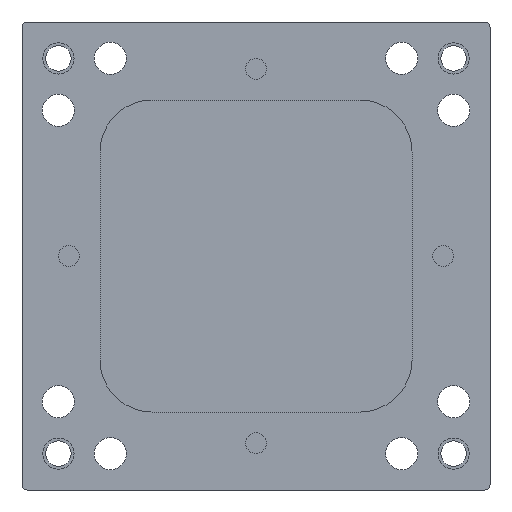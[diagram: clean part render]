
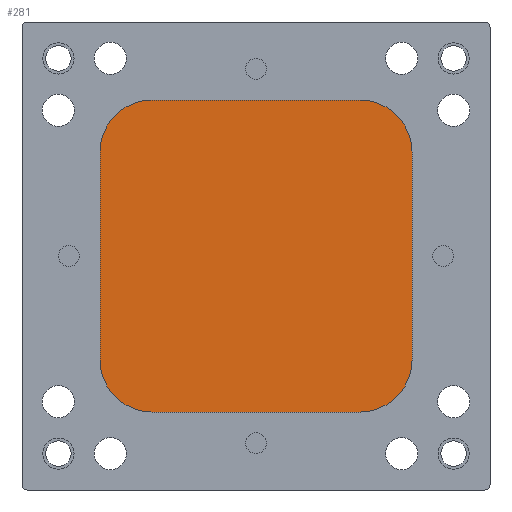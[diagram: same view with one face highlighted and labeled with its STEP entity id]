
A CAD part, left-side view. The second image highlights one B-rep face of the part: STEP entity #281.
In plain terms, the highlighted planar face has unit normal (-1, 0, 0).
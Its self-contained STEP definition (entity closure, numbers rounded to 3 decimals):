
#281=ADVANCED_FACE('',(#378),#1071,.T.);
#378=FACE_OUTER_BOUND('',#506,.F.);
#506=EDGE_LOOP('',(#959,#960,#961,#962,#963,#964,#965,#966));
#959=ORIENTED_EDGE('',*,*,#1855,.F.);
#960=ORIENTED_EDGE('',*,*,#1824,.T.);
#961=ORIENTED_EDGE('',*,*,#1854,.F.);
#962=ORIENTED_EDGE('',*,*,#1825,.T.);
#963=ORIENTED_EDGE('',*,*,#1852,.F.);
#964=ORIENTED_EDGE('',*,*,#1827,.T.);
#965=ORIENTED_EDGE('',*,*,#1853,.F.);
#966=ORIENTED_EDGE('',*,*,#1826,.T.);
#1071=PLANE('',#2641);
#1592=LINE('',#3480,#1704);
#1593=LINE('',#3481,#1705);
#1594=LINE('',#3482,#1706);
#1595=LINE('',#3483,#1707);
#1704=VECTOR('',#2740,20.);
#1705=VECTOR('',#2741,20.);
#1706=VECTOR('',#2742,20.);
#1707=VECTOR('',#2743,20.);
#1824=EDGE_CURVE('',#2375,#2374,#2080,.T.);
#1825=EDGE_CURVE('',#2373,#2372,#2081,.T.);
#1826=EDGE_CURVE('',#2371,#2370,#2082,.T.);
#1827=EDGE_CURVE('',#2369,#2368,#2083,.T.);
#1852=EDGE_CURVE('',#2369,#2372,#1592,.T.);
#1853=EDGE_CURVE('',#2371,#2368,#1593,.T.);
#1854=EDGE_CURVE('',#2373,#2374,#1594,.T.);
#1855=EDGE_CURVE('',#2375,#2370,#1595,.T.);
#2080=CIRCLE('',#2429,5.);
#2081=CIRCLE('',#2430,5.);
#2082=CIRCLE('',#2431,5.);
#2083=CIRCLE('',#2432,5.);
#2368=VERTEX_POINT('',#3420);
#2369=VERTEX_POINT('',#3421);
#2370=VERTEX_POINT('',#3422);
#2371=VERTEX_POINT('',#3423);
#2372=VERTEX_POINT('',#3424);
#2373=VERTEX_POINT('',#3425);
#2374=VERTEX_POINT('',#3426);
#2375=VERTEX_POINT('',#3427);
#2429=AXIS2_PLACEMENT_3D('',#3452,#2684,#2685);
#2430=AXIS2_PLACEMENT_3D('',#3453,#2686,#2687);
#2431=AXIS2_PLACEMENT_3D('',#3454,#2688,#2689);
#2432=AXIS2_PLACEMENT_3D('',#3455,#2690,#2691);
#2641=AXIS2_PLACEMENT_3D('',#3776,#3220,#3221);
#2684=DIRECTION('',(1.,0.,0.));
#2685=DIRECTION('',(0.,0.,-1.));
#2686=DIRECTION('',(1.,0.,0.));
#2687=DIRECTION('',(0.,1.,0.));
#2688=DIRECTION('',(1.,0.,0.));
#2689=DIRECTION('',(0.,-1.,0.));
#2690=DIRECTION('',(1.,0.,0.));
#2691=DIRECTION('',(0.,0.,1.));
#2740=DIRECTION('',(0.,1.,0.));
#2741=DIRECTION('',(0.,0.,1.));
#2742=DIRECTION('',(0.,0.,-1.));
#2743=DIRECTION('',(0.,-1.,0.));
#3220=DIRECTION('',(-1.,0.,0.));
#3221=DIRECTION('',(0.,1.,0.));
#3420=CARTESIAN_POINT('',(-200.25,475.5,-246.75));
#3421=CARTESIAN_POINT('',(-200.25,480.5,-241.75));
#3422=CARTESIAN_POINT('',(-200.25,480.5,-271.75));
#3423=CARTESIAN_POINT('',(-200.25,475.5,-266.75));
#3424=CARTESIAN_POINT('',(-200.25,500.5,-241.75));
#3425=CARTESIAN_POINT('',(-200.25,505.5,-246.75));
#3426=CARTESIAN_POINT('',(-200.25,505.5,-266.75));
#3427=CARTESIAN_POINT('',(-200.25,500.5,-271.75));
#3452=CARTESIAN_POINT('',(-200.25,500.5,-266.75));
#3453=CARTESIAN_POINT('',(-200.25,500.5,-246.75));
#3454=CARTESIAN_POINT('',(-200.25,480.5,-266.75));
#3455=CARTESIAN_POINT('',(-200.25,480.5,-246.75));
#3480=CARTESIAN_POINT('',(-200.25,480.5,-241.75));
#3481=CARTESIAN_POINT('',(-200.25,475.5,-266.75));
#3482=CARTESIAN_POINT('',(-200.25,505.5,-246.75));
#3483=CARTESIAN_POINT('',(-200.25,500.5,-271.75));
#3776=CARTESIAN_POINT('',(-200.25,475.2,-272.05));
